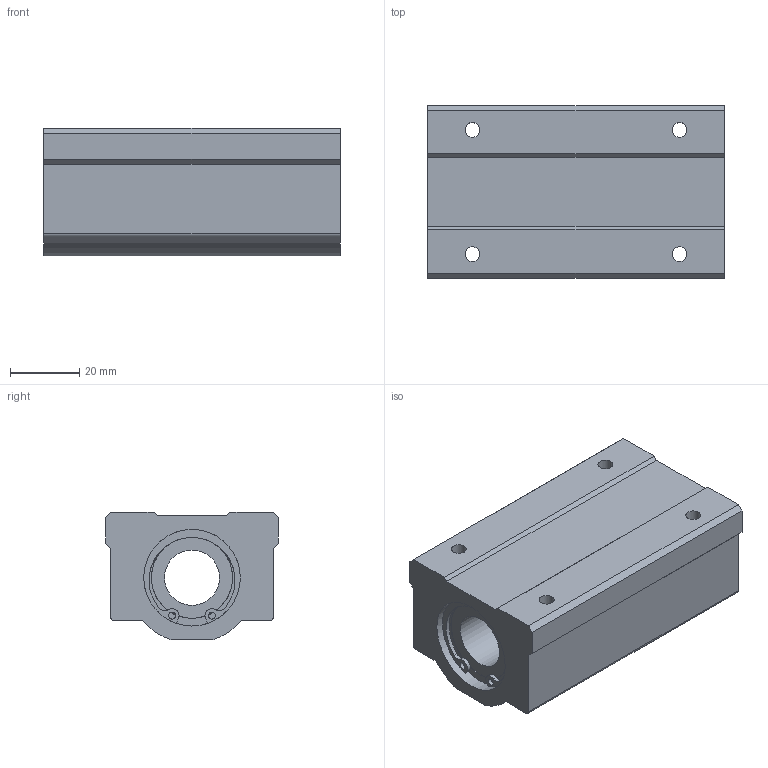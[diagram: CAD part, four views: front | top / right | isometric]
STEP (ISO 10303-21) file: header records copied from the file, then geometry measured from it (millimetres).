
FILE_DESCRIPTION((''),'2;1');
FILE_NAME('D:\製品 (図面)\カタログ用3D\メンテナンスフリー関連\STEP形式\LHW-MF\LHW16MF.stp','2010-06-01T16:10:13',('Tsuchiya'),(''),'Autodesk Inventor 10','Autodesk Inventor 10','');
FILE_SCHEMA(('AUTOMOTIVE_DESIGN { 1 0 10303 214 1 1 1 1 }'));
Length unit declared in the file: millimetre
Products named in the file (1): LHW16MF
Bounding box: 86 x 50 x 37 mm (x, y, z)
Volume: 116254.5 mm3; surface area: 23848.7 mm2
Topology: 1 solids, 3 shells, 77 faces, 203 edges, 130 vertices
Faces by surface type: plane 40, cylinder 20, bspline 17
Full cylindrical faces by diameter (mm): 2 x2, 16 x1, 23.5 x2, 26.6 x2, 28 x4
Entity records: 2420 total; most frequent: CARTESIAN_POINT 575, DIRECTION 394, ORIENTED_EDGE 348, EDGE_CURVE 174, AXIS2_PLACEMENT_3D 159, VERTEX_POINT 118, EDGE_LOOP 114, CIRCLE 98
